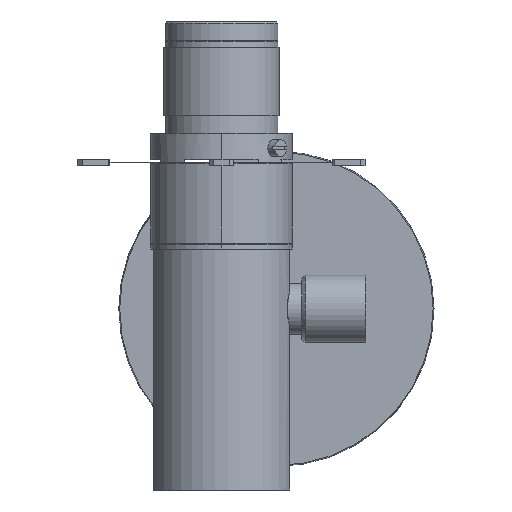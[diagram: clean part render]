
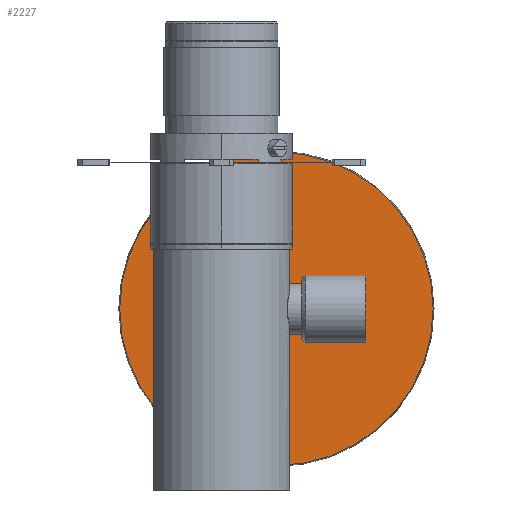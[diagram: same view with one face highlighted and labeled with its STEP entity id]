
A CAD part, front view. The second image highlights one B-rep face of the part: STEP entity #2227.
In plain terms, the highlighted planar face has unit normal (0, -1, 0).
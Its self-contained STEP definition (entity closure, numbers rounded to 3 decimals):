
#59 = CIRCLE ( 'NONE', #1073, 18. ) ;
#206 = CARTESIAN_POINT ( 'NONE',  ( 28.3, 124., 0. ) ) ;
#272 = ORIENTED_EDGE ( 'NONE', *, *, #3982, .F. ) ;
#1073 = AXIS2_PLACEMENT_3D ( 'NONE', #5948, #2706, #5927 ) ;
#1195 = ORIENTED_EDGE ( 'NONE', *, *, #3017, .T. ) ;
#1383 = FACE_BOUND ( 'NONE', #1872, .T. ) ;
#1406 = DIRECTION ( 'NONE',  ( 0., 1., 0. ) ) ;
#1436 = DIRECTION ( 'NONE',  ( 0., 0., 1. ) ) ;
#1770 = CARTESIAN_POINT ( 'NONE',  ( -6.7, 124., 0. ) ) ;
#1830 = DIRECTION ( 'NONE',  ( 0., 1., 0. ) ) ;
#1872 = EDGE_LOOP ( 'NONE', ( #7436, #1195 ) ) ;
#2200 = AXIS2_PLACEMENT_3D ( 'NONE', #206, #5411, #6696 ) ;
#2227 = ADVANCED_FACE ( 'NONE', ( #1383, #8102 ), #2589, .F. ) ;
#2548 = AXIS2_PLACEMENT_3D ( 'NONE', #1770, #1830, #7683 ) ;
#2589 = PLANE ( 'NONE',  #6137 ) ;
#2706 = DIRECTION ( 'NONE',  ( 0., 1., 0. ) ) ;
#2974 = CIRCLE ( 'NONE', #2548, 93. ) ;
#3017 = EDGE_CURVE ( 'NONE', #4588, #4918, #59, .T. ) ;
#3879 = DIRECTION ( 'NONE',  ( 0., 1., 0. ) ) ;
#3982 = EDGE_CURVE ( 'NONE', #6342, #4385, #2974, .T. ) ;
#4085 = CIRCLE ( 'NONE', #2200, 18. ) ;
#4098 = CIRCLE ( 'NONE', #6055, 93. ) ;
#4385 = VERTEX_POINT ( 'NONE', #8044 ) ;
#4478 = CARTESIAN_POINT ( 'NONE',  ( -6.7, 124., 0. ) ) ;
#4513 = CARTESIAN_POINT ( 'NONE',  ( 28.3, 124., -18. ) ) ;
#4588 = VERTEX_POINT ( 'NONE', #4513 ) ;
#4783 = CARTESIAN_POINT ( 'NONE',  ( -6.7, 124., 93. ) ) ;
#4918 = VERTEX_POINT ( 'NONE', #7423 ) ;
#5125 = EDGE_CURVE ( 'NONE', #4385, #6342, #4098, .T. ) ;
#5411 = DIRECTION ( 'NONE',  ( 0., 1., 0. ) ) ;
#5867 = CARTESIAN_POINT ( 'NONE',  ( -6.7, 124., 0. ) ) ;
#5927 = DIRECTION ( 'NONE',  ( 0., 0., 1. ) ) ;
#5948 = CARTESIAN_POINT ( 'NONE',  ( 28.3, 124., 0. ) ) ;
#6055 = AXIS2_PLACEMENT_3D ( 'NONE', #4478, #3879, #6480 ) ;
#6137 = AXIS2_PLACEMENT_3D ( 'NONE', #5867, #1406, #1436 ) ;
#6342 = VERTEX_POINT ( 'NONE', #4783 ) ;
#6366 = EDGE_CURVE ( 'NONE', #4918, #4588, #4085, .T. ) ;
#6463 = EDGE_LOOP ( 'NONE', ( #272, #7920 ) ) ;
#6480 = DIRECTION ( 'NONE',  ( 0., 0., 1. ) ) ;
#6696 = DIRECTION ( 'NONE',  ( 0., 0., 1. ) ) ;
#7423 = CARTESIAN_POINT ( 'NONE',  ( 28.3, 124., 18. ) ) ;
#7436 = ORIENTED_EDGE ( 'NONE', *, *, #6366, .T. ) ;
#7683 = DIRECTION ( 'NONE',  ( 0., 0., 1. ) ) ;
#7920 = ORIENTED_EDGE ( 'NONE', *, *, #5125, .F. ) ;
#8044 = CARTESIAN_POINT ( 'NONE',  ( -6.7, 124., -93. ) ) ;
#8102 = FACE_OUTER_BOUND ( 'NONE', #6463, .T. ) ;
